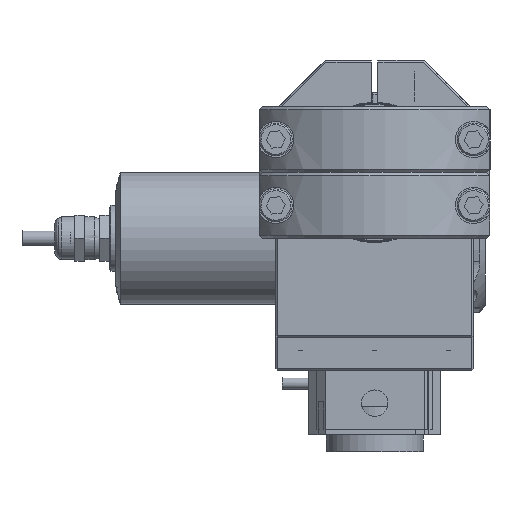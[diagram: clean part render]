
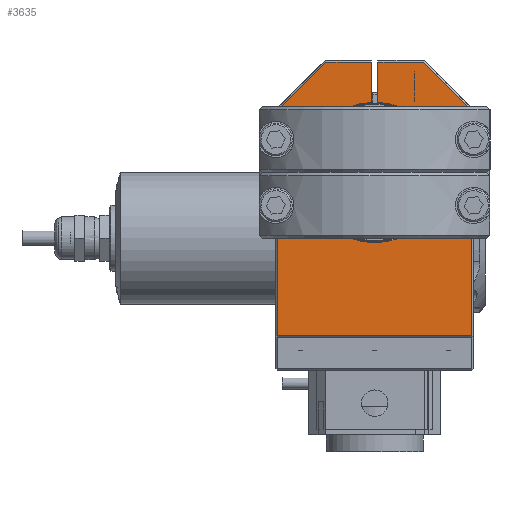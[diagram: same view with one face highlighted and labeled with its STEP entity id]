
A CAD part, left-side view. The second image highlights one B-rep face of the part: STEP entity #3635.
In plain terms, the highlighted planar face has unit normal (-1, 0, 0) as drawn and (1, 0, 0) by its records, which use the part's own axes.
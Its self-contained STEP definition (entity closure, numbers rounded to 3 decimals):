
#3635 = ADVANCED_FACE( '', ( #7183 ), #7184, .T. );
#7183 = FACE_OUTER_BOUND( '', #12874, .T. );
#7184 = PLANE( '', #12875 );
#12874 = EDGE_LOOP( '', ( #21679, #21680, #21681, #21682, #21683, #21684, #21685, #21686, #21687, #21688 ) );
#12875 = AXIS2_PLACEMENT_3D( '', #21689, #21690, #21691 );
#21679 = ORIENTED_EDGE( '', *, *, #25026, .F. );
#21680 = ORIENTED_EDGE( '', *, *, #27321, .T. );
#21681 = ORIENTED_EDGE( '', *, *, #27208, .F. );
#21682 = ORIENTED_EDGE( '', *, *, #27409, .T. );
#21683 = ORIENTED_EDGE( '', *, *, #26974, .T. );
#21684 = ORIENTED_EDGE( '', *, *, #27410, .T. );
#21685 = ORIENTED_EDGE( '', *, *, #27411, .T. );
#21686 = ORIENTED_EDGE( '', *, *, #27412, .T. );
#21687 = ORIENTED_EDGE( '', *, *, #25613, .T. );
#21688 = ORIENTED_EDGE( '', *, *, #27413, .T. );
#21689 = CARTESIAN_POINT( '', ( 20., -30., -42. ) );
#21690 = DIRECTION( '', ( 1., 0., 0. ) );
#21691 = DIRECTION( '', ( 0., 1., 0. ) );
#25026 = EDGE_CURVE( '', #30330, #30332, #30333, .T. );
#25613 = EDGE_CURVE( '', #31313, #31317, #31319, .T. );
#26974 = EDGE_CURVE( '', #33485, #33490, #33492, .T. );
#27208 = EDGE_CURVE( '', #33829, #33831, #33832, .T. );
#27321 = EDGE_CURVE( '', #30330, #33831, #33997, .F. );
#27409 = EDGE_CURVE( '', #33829, #33485, #34117, .T. );
#27410 = EDGE_CURVE( '', #33490, #30445, #34118, .T. );
#27411 = EDGE_CURVE( '', #30445, #34119, #34120, .T. );
#27412 = EDGE_CURVE( '', #34119, #31313, #34121, .T. );
#27413 = EDGE_CURVE( '', #31317, #30332, #34122, .T. );
#30330 = VERTEX_POINT( '', #37315 );
#30332 = VERTEX_POINT( '', #37320 );
#30333 = LINE( '', #37321, #37322 );
#30445 = VERTEX_POINT( '', #37594 );
#31313 = VERTEX_POINT( '', #39400 );
#31317 = VERTEX_POINT( '', #39406 );
#31319 = LINE( '', #39409, #39410 );
#33485 = VERTEX_POINT( '', #46685 );
#33490 = VERTEX_POINT( '', #46692 );
#33492 = LINE( '', #46695, #46696 );
#33829 = VERTEX_POINT( '', #47501 );
#33831 = VERTEX_POINT( '', #47504 );
#33832 = LINE( '', #47505, #47506 );
#33997 = CIRCLE( '', #48015, 21.3 );
#34117 = LINE( '', #48213, #48214 );
#34118 = LINE( '', #48215, #48216 );
#34119 = VERTEX_POINT( '', #48217 );
#34120 = LINE( '', #48218, #48219 );
#34121 = LINE( '', #48220, #48221 );
#34122 = LINE( '', #48222, #48223 );
#37315 = CARTESIAN_POINT( '', ( 20., 1., 29.277 ) );
#37320 = CARTESIAN_POINT( '', ( 20., 1., 41.5 ) );
#37321 = CARTESIAN_POINT( '', ( 20., 1., 22. ) );
#37322 = VECTOR( '', #54189, 1000. );
#37594 = CARTESIAN_POINT( '', ( 20., -29.5, -41.5 ) );
#39400 = CARTESIAN_POINT( '', ( 20., 29.5, 26.793 ) );
#39406 = CARTESIAN_POINT( '', ( 20., 14.793, 41.5 ) );
#39409 = CARTESIAN_POINT( '', ( 20., 34.146, 22.146 ) );
#39410 = VECTOR( '', #54840, 1000. );
#46685 = CARTESIAN_POINT( '', ( 20., -14.793, 41.5 ) );
#46692 = CARTESIAN_POINT( '', ( 20., -29.5, 26.793 ) );
#46695 = CARTESIAN_POINT( '', ( 20., -64.146, -7.854 ) );
#46696 = VECTOR( '', #56161, 1000. );
#47501 = CARTESIAN_POINT( '', ( 20., -1., 41.5 ) );
#47504 = CARTESIAN_POINT( '', ( 20., -1., 29.277 ) );
#47505 = CARTESIAN_POINT( '', ( 20., -1., 42. ) );
#47506 = VECTOR( '', #56422, 1000. );
#48015 = AXIS2_PLACEMENT_3D( '', #56523, #56524, #56525 );
#48213 = CARTESIAN_POINT( '', ( 20., -15., 41.5 ) );
#48214 = VECTOR( '', #56602, 1000. );
#48215 = CARTESIAN_POINT( '', ( 20., -29.5, -42. ) );
#48216 = VECTOR( '', #56603, 1000. );
#48217 = CARTESIAN_POINT( '', ( 20., 29.5, -41.5 ) );
#48218 = CARTESIAN_POINT( '', ( 20., 30., -41.5 ) );
#48219 = VECTOR( '', #56604, 1000. );
#48220 = CARTESIAN_POINT( '', ( 20., 29.5, 27. ) );
#48221 = VECTOR( '', #56605, 1000. );
#48222 = CARTESIAN_POINT( '', ( 20., -15., 41.5 ) );
#48223 = VECTOR( '', #56606, 1000. );
#54189 = DIRECTION( '', ( 0., 0., 1. ) );
#54840 = DIRECTION( '', ( 0., -0.707, 0.707 ) );
#56161 = DIRECTION( '', ( 0., -0.707, -0.707 ) );
#56422 = DIRECTION( '', ( 0., 0., -1. ) );
#56523 = CARTESIAN_POINT( '', ( 20., 0., 8. ) );
#56524 = DIRECTION( '', ( 1., 0., 0. ) );
#56525 = DIRECTION( '', ( 0., 1., 0. ) );
#56602 = DIRECTION( '', ( 0., -1., 0. ) );
#56603 = DIRECTION( '', ( 0., 0., -1. ) );
#56604 = DIRECTION( '', ( 0., 1., 0. ) );
#56605 = DIRECTION( '', ( 0., 0., 1. ) );
#56606 = DIRECTION( '', ( 0., -1., 0. ) );
